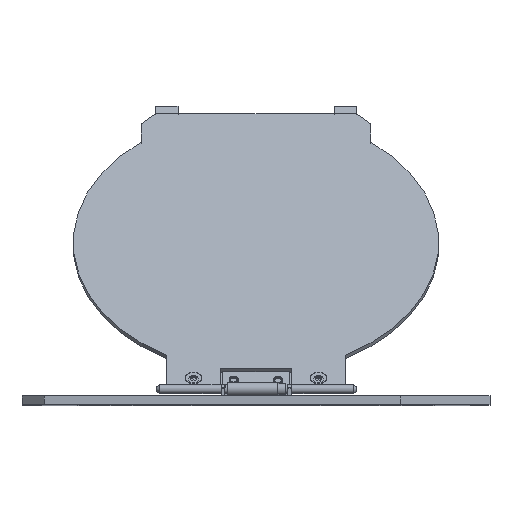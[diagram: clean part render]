
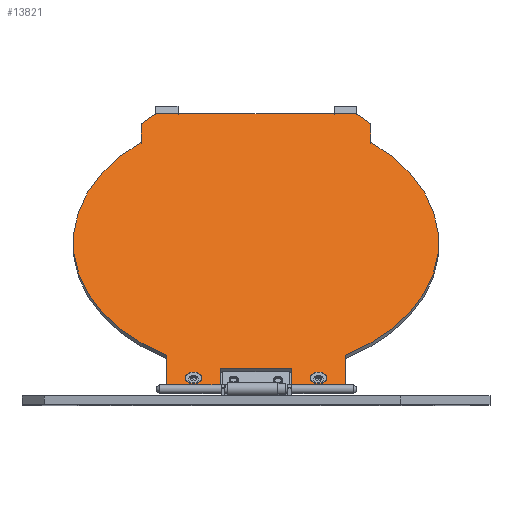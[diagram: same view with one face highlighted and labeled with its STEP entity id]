
A CAD part, top view. The second image highlights one B-rep face of the part: STEP entity #13821.
In plain terms, the highlighted planar face has unit normal (0, 0.707, 0.707) as drawn and (0, 0, -1) by its records, which use the part's own axes.
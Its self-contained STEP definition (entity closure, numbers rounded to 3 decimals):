
#233 = VERTEX_POINT ( 'NONE', #20744 ) ;
#279 = AXIS2_PLACEMENT_3D ( 'NONE', #4021, #5728, #15965 ) ;
#627 = VECTOR ( 'NONE', #6691, 1000. ) ;
#692 = DIRECTION ( 'NONE',  ( 0., 1., 0. ) ) ;
#774 = CARTESIAN_POINT ( 'NONE',  ( 8., 0., 0. ) ) ;
#1072 = ORIENTED_EDGE ( 'NONE', *, *, #12709, .T. ) ;
#1570 = VERTEX_POINT ( 'NONE', #3970 ) ;
#1929 = CARTESIAN_POINT ( 'NONE',  ( 0., -45.5, 0. ) ) ;
#2657 = LINE ( 'NONE', #16423, #14797 ) ;
#2839 = VECTOR ( 'NONE', #18521, 1000. ) ;
#2845 = VERTEX_POINT ( 'NONE', #21820 ) ;
#2911 = EDGE_CURVE ( 'NONE', #11808, #9892, #9698, .T. ) ;
#3117 = DIRECTION ( 'NONE',  ( 0., 1., 0. ) ) ;
#3220 = AXIS2_PLACEMENT_3D ( 'NONE', #16831, #21865, #11472 ) ;
#3383 = EDGE_CURVE ( 'NONE', #21490, #21490, #7262, .T. ) ;
#3534 = VERTEX_POINT ( 'NONE', #5400 ) ;
#3691 = EDGE_CURVE ( 'NONE', #20089, #22265, #2657, .T. ) ;
#3863 = ORIENTED_EDGE ( 'NONE', *, *, #8479, .T. ) ;
#3968 = LINE ( 'NONE', #1929, #16565 ) ;
#3970 = CARTESIAN_POINT ( 'NONE',  ( 8., -40., 0. ) ) ;
#4021 = CARTESIAN_POINT ( 'NONE',  ( 0., 0., 0. ) ) ;
#4027 = LINE ( 'NONE', #16537, #14366 ) ;
#4300 = ORIENTED_EDGE ( 'NONE', *, *, #3383, .T. ) ;
#4309 = VECTOR ( 'NONE', #3117, 1000. ) ;
#4435 = PLANE ( 'NONE',  #5362 ) ;
#4557 = CARTESIAN_POINT ( 'NONE',  ( 20.05, -45.5, 0. ) ) ;
#4647 = VECTOR ( 'NONE', #8900, 1000. ) ;
#4771 = EDGE_LOOP ( 'NONE', ( #16544 ) ) ;
#5362 = AXIS2_PLACEMENT_3D ( 'NONE', #11371, #21532, #9326 ) ;
#5400 = CARTESIAN_POINT ( 'NONE',  ( -20.05, -45.5, 0. ) ) ;
#5728 = DIRECTION ( 'NONE',  ( 0., 0., 1. ) ) ;
#6163 = VECTOR ( 'NONE', #6742, 1000. ) ;
#6491 = VERTEX_POINT ( 'NONE', #18334 ) ;
#6539 = CARTESIAN_POINT ( 'NONE',  ( 25.75, 0., 0. ) ) ;
#6691 = DIRECTION ( 'NONE',  ( 0., 1., 0. ) ) ;
#6721 = EDGE_CURVE ( 'NONE', #22265, #11781, #3968, .T. ) ;
#6742 = DIRECTION ( 'NONE',  ( 0., 1., 0. ) ) ;
#6887 = ORIENTED_EDGE ( 'NONE', *, *, #11408, .F. ) ;
#7209 = CIRCLE ( 'NONE', #3220, 41. ) ;
#7262 = CIRCLE ( 'NONE', #13074, 1.825 ) ;
#7545 = CARTESIAN_POINT ( 'NONE',  ( -31.75, 31.75, 0. ) ) ;
#7640 = EDGE_LOOP ( 'NONE', ( #4300 ) ) ;
#7995 = CARTESIAN_POINT ( 'NONE',  ( -8., 0., 0. ) ) ;
#8030 = ORIENTED_EDGE ( 'NONE', *, *, #21047, .F. ) ;
#8286 = CARTESIAN_POINT ( 'NONE',  ( -8., -40., 0. ) ) ;
#8479 = EDGE_CURVE ( 'NONE', #233, #2845, #14980, .T. ) ;
#8900 = DIRECTION ( 'NONE',  ( 0.707, 0.707, 0. ) ) ;
#9326 = DIRECTION ( 'NONE',  ( 1., 0., 0. ) ) ;
#9698 = LINE ( 'NONE', #7995, #6163 ) ;
#9747 = LINE ( 'NONE', #16693, #2839 ) ;
#9892 = VERTEX_POINT ( 'NONE', #8286 ) ;
#9958 = CARTESIAN_POINT ( 'NONE',  ( -22.5, 41., 0. ) ) ;
#10022 = VECTOR ( 'NONE', #20281, 1000. ) ;
#10173 = EDGE_LOOP ( 'NONE', ( #18849, #21267, #12941, #6887, #18954, #8030, #3863, #1072, #21454, #12815, #17793, #18440, #20899, #18990 ) ) ;
#10462 = CIRCLE ( 'NONE', #14830, 1.825 ) ;
#10513 = LINE ( 'NONE', #7545, #4647 ) ;
#10676 = EDGE_CURVE ( 'NONE', #14409, #3534, #21127, .T. ) ;
#10770 = CARTESIAN_POINT ( 'NONE',  ( 14.025, -43., 0. ) ) ;
#10795 = DIRECTION ( 'NONE',  ( -1., 0., 0. ) ) ;
#10880 = CARTESIAN_POINT ( 'NONE',  ( 22.5, 41., 0. ) ) ;
#10896 = EDGE_CURVE ( 'NONE', #20089, #11010, #7209, .T. ) ;
#11010 = VERTEX_POINT ( 'NONE', #18767 ) ;
#11079 = DIRECTION ( 'NONE',  ( 1., 0., 0. ) ) ;
#11096 = LINE ( 'NONE', #774, #11499 ) ;
#11155 = CIRCLE ( 'NONE', #279, 41. ) ;
#11182 = VERTEX_POINT ( 'NONE', #9958 ) ;
#11371 = CARTESIAN_POINT ( 'NONE',  ( 0., 0., 0. ) ) ;
#11408 = EDGE_CURVE ( 'NONE', #3534, #11808, #11414, .T. ) ;
#11414 = LINE ( 'NONE', #16775, #15189 ) ;
#11472 = DIRECTION ( 'NONE',  ( 1., 0., 0. ) ) ;
#11499 = VECTOR ( 'NONE', #20208, 1000. ) ;
#11781 = VERTEX_POINT ( 'NONE', #19388 ) ;
#11808 = VERTEX_POINT ( 'NONE', #19175 ) ;
#12221 = CARTESIAN_POINT ( 'NONE',  ( -20.05, 0., 0. ) ) ;
#12444 = DIRECTION ( 'NONE',  ( 0., -1., 0. ) ) ;
#12709 = EDGE_CURVE ( 'NONE', #2845, #11182, #10513, .T. ) ;
#12808 = CARTESIAN_POINT ( 'NONE',  ( 14.025, -44.825, 0. ) ) ;
#12815 = ORIENTED_EDGE ( 'NONE', *, *, #18643, .F. ) ;
#12941 = ORIENTED_EDGE ( 'NONE', *, *, #2911, .F. ) ;
#13074 = AXIS2_PLACEMENT_3D ( 'NONE', #10770, #19546, #17833 ) ;
#13085 = FACE_BOUND ( 'NONE', #7640, .T. ) ;
#13173 = CARTESIAN_POINT ( 'NONE',  ( -25.75, 0., 0. ) ) ;
#13202 = LINE ( 'NONE', #22108, #10022 ) ;
#13227 = EDGE_CURVE ( 'NONE', #1570, #9892, #9747, .T. ) ;
#13821 = ADVANCED_FACE ( 'NONE', ( #13085, #20041, #14443 ), #4435, .F. ) ;
#14366 = VECTOR ( 'NONE', #11079, 1000. ) ;
#14409 = VERTEX_POINT ( 'NONE', #19989 ) ;
#14443 = FACE_BOUND ( 'NONE', #4771, .T. ) ;
#14731 = EDGE_CURVE ( 'NONE', #6491, #6491, #10462, .T. ) ;
#14797 = VECTOR ( 'NONE', #19975, 1000. ) ;
#14830 = AXIS2_PLACEMENT_3D ( 'NONE', #17965, #21512, #692 ) ;
#14980 = LINE ( 'NONE', #13173, #627 ) ;
#15016 = VERTEX_POINT ( 'NONE', #15995 ) ;
#15189 = VECTOR ( 'NONE', #18370, 1000. ) ;
#15759 = EDGE_CURVE ( 'NONE', #11010, #15016, #22262, .T. ) ;
#15965 = DIRECTION ( 'NONE',  ( 1., 0., 0. ) ) ;
#15995 = CARTESIAN_POINT ( 'NONE',  ( 25.75, 37.75, 0. ) ) ;
#16282 = CARTESIAN_POINT ( 'NONE',  ( 20.05, -35.763, 0. ) ) ;
#16423 = CARTESIAN_POINT ( 'NONE',  ( 20.05, 0., 0. ) ) ;
#16537 = CARTESIAN_POINT ( 'NONE',  ( 0., 41., 0. ) ) ;
#16544 = ORIENTED_EDGE ( 'NONE', *, *, #14731, .T. ) ;
#16565 = VECTOR ( 'NONE', #10795, 1000. ) ;
#16693 = CARTESIAN_POINT ( 'NONE',  ( 8., -40., 0. ) ) ;
#16775 = CARTESIAN_POINT ( 'NONE',  ( 0., -45.5, 0. ) ) ;
#16831 = CARTESIAN_POINT ( 'NONE',  ( 0., 0., 0. ) ) ;
#17793 = ORIENTED_EDGE ( 'NONE', *, *, #15759, .F. ) ;
#17833 = DIRECTION ( 'NONE',  ( 0., -1., 0. ) ) ;
#17965 = CARTESIAN_POINT ( 'NONE',  ( -14.025, -43., 0. ) ) ;
#18334 = CARTESIAN_POINT ( 'NONE',  ( -14.025, -41.175, 0. ) ) ;
#18370 = DIRECTION ( 'NONE',  ( 1., 0., 0. ) ) ;
#18440 = ORIENTED_EDGE ( 'NONE', *, *, #10896, .F. ) ;
#18489 = VECTOR ( 'NONE', #12444, 1000. ) ;
#18521 = DIRECTION ( 'NONE',  ( -1., 0., 0. ) ) ;
#18643 = EDGE_CURVE ( 'NONE', #15016, #20477, #13202, .T. ) ;
#18767 = CARTESIAN_POINT ( 'NONE',  ( 25.75, 31.905, 0. ) ) ;
#18849 = ORIENTED_EDGE ( 'NONE', *, *, #20780, .T. ) ;
#18954 = ORIENTED_EDGE ( 'NONE', *, *, #10676, .F. ) ;
#18955 = EDGE_CURVE ( 'NONE', #11182, #20477, #4027, .T. ) ;
#18990 = ORIENTED_EDGE ( 'NONE', *, *, #6721, .T. ) ;
#19175 = CARTESIAN_POINT ( 'NONE',  ( -8., -45.5, 0. ) ) ;
#19388 = CARTESIAN_POINT ( 'NONE',  ( 8., -45.5, 0. ) ) ;
#19546 = DIRECTION ( 'NONE',  ( 0., 0., 1. ) ) ;
#19975 = DIRECTION ( 'NONE',  ( 0., -1., 0. ) ) ;
#19989 = CARTESIAN_POINT ( 'NONE',  ( -20.05, -35.763, 0. ) ) ;
#20041 = FACE_OUTER_BOUND ( 'NONE', #10173, .T. ) ;
#20089 = VERTEX_POINT ( 'NONE', #16282 ) ;
#20208 = DIRECTION ( 'NONE',  ( 0., 1., 0. ) ) ;
#20281 = DIRECTION ( 'NONE',  ( -0.707, 0.707, 0. ) ) ;
#20477 = VERTEX_POINT ( 'NONE', #10880 ) ;
#20744 = CARTESIAN_POINT ( 'NONE',  ( -25.75, 31.905, 0. ) ) ;
#20780 = EDGE_CURVE ( 'NONE', #11781, #1570, #11096, .T. ) ;
#20899 = ORIENTED_EDGE ( 'NONE', *, *, #3691, .T. ) ;
#21047 = EDGE_CURVE ( 'NONE', #233, #14409, #11155, .T. ) ;
#21127 = LINE ( 'NONE', #12221, #18489 ) ;
#21267 = ORIENTED_EDGE ( 'NONE', *, *, #13227, .T. ) ;
#21454 = ORIENTED_EDGE ( 'NONE', *, *, #18955, .T. ) ;
#21490 = VERTEX_POINT ( 'NONE', #12808 ) ;
#21512 = DIRECTION ( 'NONE',  ( 0., 0., 1. ) ) ;
#21532 = DIRECTION ( 'NONE',  ( 0., 0., 1. ) ) ;
#21820 = CARTESIAN_POINT ( 'NONE',  ( -25.75, 37.75, 0. ) ) ;
#21865 = DIRECTION ( 'NONE',  ( 0., 0., 1. ) ) ;
#22108 = CARTESIAN_POINT ( 'NONE',  ( 31.75, 31.75, 0. ) ) ;
#22262 = LINE ( 'NONE', #6539, #4309 ) ;
#22265 = VERTEX_POINT ( 'NONE', #4557 ) ;
